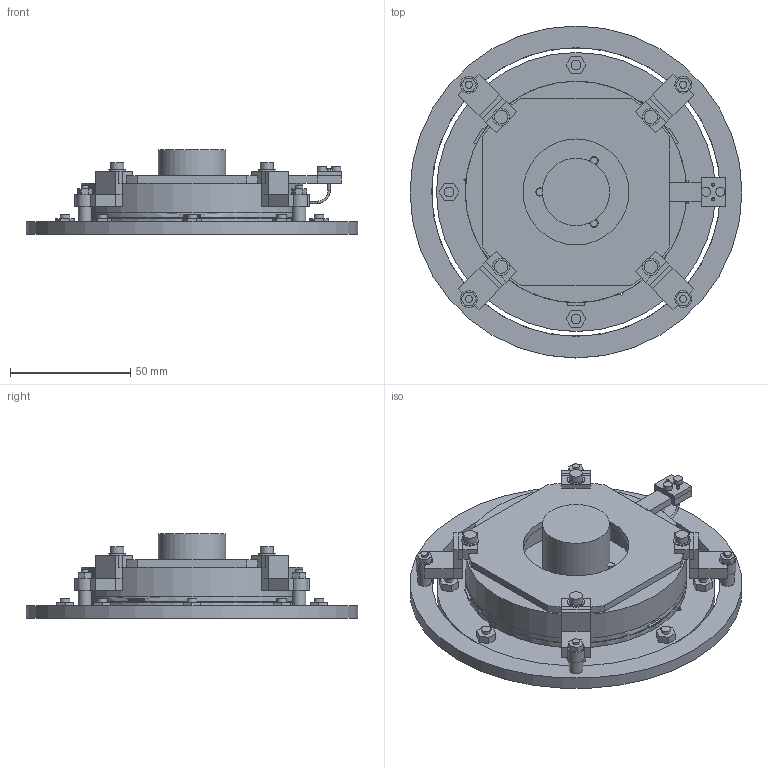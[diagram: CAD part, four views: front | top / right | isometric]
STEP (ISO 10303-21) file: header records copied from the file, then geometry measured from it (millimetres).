
FILE_DESCRIPTION(('FreeCAD Model'),'2;1');
FILE_NAME('public-brake.step','2026-11-11T00:00:00',(''),(''),'Open CASCADE','FreeCAD','');
FILE_SCHEMA(('AUTOMOTIVE_DESIGN { 1 0 10303 214 1 1 1 1 }'));
Length unit declared in the file: millimetre
Products named in the file (150): PublicBrake1Axis; Z_YOKE; Z_POLE_CAP_INNER; Z_POLE_CAP_OUTER; Z_COIL_RETAINER; Z_LINING_0; Z_LINING_1; Z_LINING_2; Z_LINING_KEEPER_0; Z_LINING_KEEPER_1; Z_LINING_KEEPER_2; Z_RETAINER_BOLT_0; Z_RETAINER_BOLT_1; Z_RETAINER_BOLT_2; Z_RETAINER_BOLT_3; Z_RETAINER_BOLT_4; Z_RETAINER_BOLT_5; Z_BOBBIN; Z_WINDING; Z_BOBBIN_PAD_0; Z_BOBBIN_PAD_1; Z_BOBBIN_PAD_2; Z_BOBBIN_REAR_INSULATOR; Z_LEAD_BUSHING_0; Z_LEAD_BUSHING_1; Z_CARRIER; Z_STATOR_LOCATING_PIN_0; Z_STATOR_LOCATING_PIN_1; Z_STATOR_BOLT_0; Z_STATOR_BOLT_1; Z_STATOR_BOLT_2; Z_STATOR_BOLT_3; Z_STATOR_WASHER_0; Z_STATOR_WASHER_1; Z_STATOR_WASHER_2; Z_STATOR_WASHER_3; Z_POST_0; Z_POST_1; Z_POST_2; Z_POST_3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
Assembly tree (149 placements, depth 2):
  PublicBrake1Axis
    Z_YOKE
    Z_POLE_CAP_INNER
    Z_POLE_CAP_OUTER
    Z_COIL_RETAINER
    Z_LINING_0
    Z_LINING_1
    Z_LINING_2
    Z_LINING_KEEPER_0
    Z_LINING_KEEPER_1
    Z_LINING_KEEPER_2
    Z_RETAINER_BOLT_0
    Z_RETAINER_BOLT_1
    Z_RETAINER_BOLT_2
    Z_RETAINER_BOLT_3
    Z_RETAINER_BOLT_4
    Z_RETAINER_BOLT_5
    Z_BOBBIN
    Z_WINDING
    Z_BOBBIN_PAD_0
    Z_BOBBIN_PAD_1
    Z_BOBBIN_PAD_2
    Z_BOBBIN_REAR_INSULATOR
    Z_LEAD_BUSHING_0
    Z_LEAD_BUSHING_1
    Z_CARRIER
    Z_STATOR_LOCATING_PIN_0
    Z_STATOR_LOCATING_PIN_1
    Z_STATOR_BOLT_0
    Z_STATOR_BOLT_1
    Z_STATOR_BOLT_2
    Z_STATOR_BOLT_3
    Z_STATOR_WASHER_0
    Z_STATOR_WASHER_1
    Z_STATOR_WASHER_2
    Z_STATOR_WASHER_3
    Z_POST_0
    Z_POST_1
    Z_POST_2
    Z_POST_3
    Z_FRAME_BOLT_0
    Z_FRAME_BOLT_1
    Z_FRAME_BOLT_2
    Z_FRAME_BOLT_3
    Z_FRAME_NUT_0
    Z_FRAME_NUT_1
    Z_FRAME_NUT_2
    Z_FRAME_NUT_3
    Z_BEARING_CAP
    Z_BEARING_OUTER
    Z_BEARING_INNER
    Z_HUB_INNER_RACE_REAR_SHIM
    Z_BEARING_BALL_0
    Z_BEARING_BALL_1
    Z_BEARING_BALL_2
    Z_BEARING_BALL_3
    Z_BEARING_BALL_4
    Z_BEARING_BALL_5
    Z_BEARING_BALL_6
    Z_BEARING_BALL_7
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Bounding box: 138 x 138 x 35 mm (x, y, z)
Volume: 169524.3 mm3; surface area: 158985.7 mm2
Topology: 149 solids, 149 shells, 1952 faces, 4387 edges, 2813 vertices
Faces by surface type: plane 1318, cylinder 515, cone 104, sphere 10, torus 5
Full cylindrical faces by diameter (mm): 0.95 x4, 1 x6, 1.1 x4, 1.3 x4, 1.6 x23, 2 x25, 2.05 x6, 2.08 x12, 2.1 x39, 2.2 x7, 2.3 x4, 2.4 x2, 2.5 x18, 2.6 x4, 2.7 x6, 2.8 x2, 2.9 x2, 3 x34, 3.2 x27, 3.3 x12, 3.4 x27, 3.6 x2, 3.8 x2, 4 x27, 4.05 x4, 4.1 x2, 4.4 x8, 5.5 x8, 6 x2, 6.2 x1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
Entity records: 58188 total; most frequent: CARTESIAN_POINT 10420, DIRECTION 10016, ORIENTED_EDGE 8706, EDGE_CURVE 4353, AXIS2_PLACEMENT_3D 3613, VERTEX_POINT 2801, LINE 2790, VECTOR 2790
